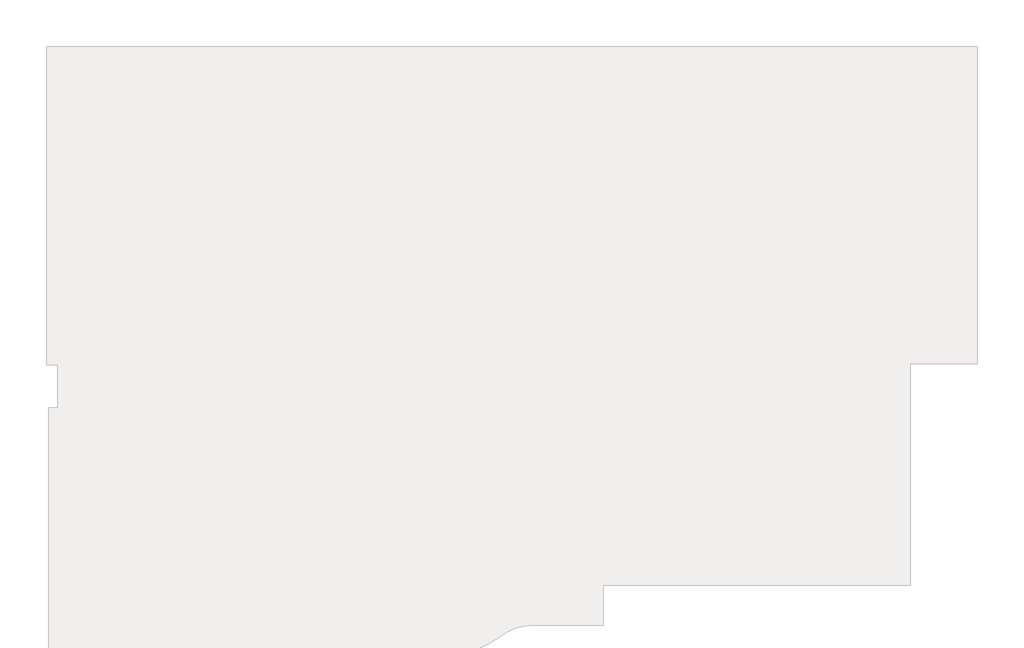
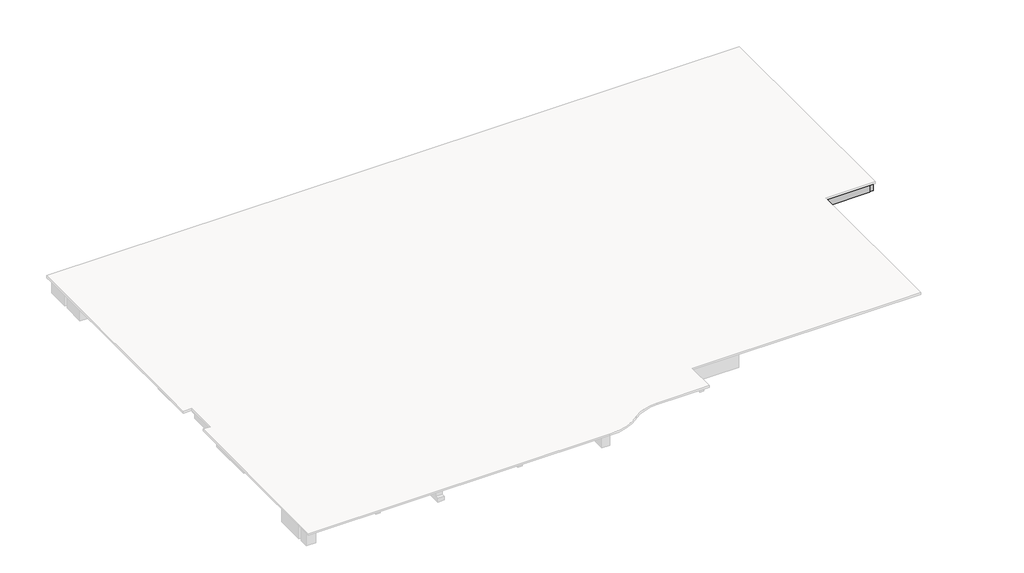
# One storey, part 3 of 3: 24 beams.
"""IFC4 building model written with IfcOpenShell, lengths in millimetres."""

import ifcopenshell
import ifcopenshell.guid

model = None  # the IFC model being written
_history = None  # IfcOwnerHistory: only IFC2X3 demands one
_inside = {}  # id of a spatial element -> (the spatial element, [elements in it])
_under = {}  # id of a project, library or spatial element -> (it, [spatial elements below it])
_declared = {}  # id of a project -> (the project, [libraries it declares])
_typed = {}  # id of a type object -> (the type object, [elements of that type])
_made_of = {}  # id of a material, layer set ... -> (it, [elements and type objects made of it])


def new_model(schema):
    """Start an empty IFC model of exactly this schema.

    Asked for "IFC4X3", IfcOpenShell would pick the latest addendum, in which some entities
    have other attributes; the version numbers below select the first issue.
    IFC2X3 requires an IfcOwnerHistory on every rooted entity: one is made here for all.
    """
    global model, _history
    if schema == "IFC4X3":
        model = ifcopenshell.file(schema_version=(4, 3, 0, 0))
    else:
        model = ifcopenshell.file(schema=schema)
    _inside.clear()
    _under.clear()
    _declared.clear()
    _typed.clear()
    _made_of.clear()
    _history = None
    if model.schema == "IFC2X3":
        org = make("IfcOrganization", Name="unknown")
        user = make(
            "IfcPersonAndOrganization",
            ThePerson=make("IfcPerson", FamilyName="unknown"),
            TheOrganization=org,
        )
        app = make(
            "IfcApplication",
            ApplicationDeveloper=org,
            Version="unknown",
            ApplicationFullName="unknown",
            ApplicationIdentifier="unknown",
        )
        _history = make(
            "IfcOwnerHistory",
            OwningUser=user,
            OwningApplication=app,
            ChangeAction="ADDED",
            CreationDate=0,
        )
    return model


def make(cls, **values):
    """One entity of the class cls with the attributes given. An attribute that is None is left unset."""
    return model.create_entity(
        cls, **{name: value for name, value in values.items() if value is not None}
    )


def rooted(cls, **values):
    """An entity with a GlobalId (a new one), such as an element, a storey or a relation."""
    return make(cls, GlobalId=ifcopenshell.guid.new(), OwnerHistory=_history, **values)


def si_unit(unit_type, name, prefix=None):
    """IfcSIUnit, for example si_unit("LENGTHUNIT", "METRE", prefix="MILLI")."""
    return make("IfcSIUnit", UnitType=unit_type, Prefix=prefix, Name=name)


def assignment(units):
    """IfcUnitAssignment: the units of a project."""
    return None if units is None else make("IfcUnitAssignment", Units=units)


def point(xyz):
    """IfcCartesianPoint."""
    return None if xyz is None else make("IfcCartesianPoint", Coordinates=xyz)


def direction(xyz):
    """IfcDirection."""
    return None if xyz is None else make("IfcDirection", DirectionRatios=xyz)


def frame(location, z_axis=None, x_axis=None):
    """IfcAxis2Placement3D, a coordinate frame: its origin and axes. An axis left out is left unset."""
    return make(
        "IfcAxis2Placement3D",
        Location=point(location),
        Axis=direction(z_axis),
        RefDirection=direction(x_axis),
    )


def origin():
    """The frame at (0, 0, 0) with its axes left unset."""
    return frame((0.0, 0.0, 0.0))


def place(relative_to, where):
    """IfcLocalPlacement: puts the frame where relative to a parent placement (None: the world)."""
    return make(
        "IfcLocalPlacement", PlacementRelTo=relative_to, RelativePlacement=where
    )


def context(
    kind, dimensions, precision=None, world=None, true_north=None, identifier=None
):
    """IfcGeometricRepresentationContext, for example the 3D "Model" context."""
    return make(
        "IfcGeometricRepresentationContext",
        ContextIdentifier=identifier,
        ContextType=kind,
        CoordinateSpaceDimension=dimensions,
        Precision=precision,
        WorldCoordinateSystem=world,
        TrueNorth=true_north,
    )


def project(units=None, contexts=None):
    """IfcProject with its units and contexts."""
    return rooted(
        "IfcProject",
        Name="project",
        RepresentationContexts=contexts,
        UnitsInContext=assignment(units),
    )


def spatial(cls, under=None, at=None, **own):
    """A site, building, storey or space (cls), placed at a placement, below another one or the project."""
    s = rooted(cls, ObjectPlacement=at, **own)
    if under is not None:
        _under.setdefault(under.id(), (under, []))[1].append(s)
    return s


def polyline(points):
    """IfcPolyline through the points."""
    return make("IfcPolyline", Points=[point(p) for p in points])


def outline(outer, holes=None, kind="AREA"):
    """IfcArbitraryClosedProfileDef: a profile drawn as a closed curve; with holes, ...WithVoids."""
    if holes is None:
        return make("IfcArbitraryClosedProfileDef", ProfileType=kind, OuterCurve=outer)
    return make(
        "IfcArbitraryProfileDefWithVoids",
        ProfileType=kind,
        OuterCurve=outer,
        InnerCurves=holes,
    )


def extrude(swept, where, along, depth):
    """IfcExtrudedAreaSolid: the profile swept, set in the frame where, extruded along a direction by depth."""
    return make(
        "IfcExtrudedAreaSolid",
        SweptArea=swept,
        Position=where,
        ExtrudedDirection=direction(along),
        Depth=depth,
    )


def faces_of(points, faces, orient=None, outer=None):
    """IfcFace entities. A face is a list of loops; a loop is a list of indices into points, from 0.

    orient and outer hold one flag for each loop. By default every Orientation is true, the
    first loop of a face is its IfcFaceOuterBound and the others are IfcFaceBound.
    """
    made = []
    for i, loops in enumerate(faces):
        bounds = []
        for j, loop in enumerate(loops):
            is_outer = j == 0 if outer is None else outer[i][j]
            bounds.append(
                make(
                    "IfcFaceOuterBound" if is_outer else "IfcFaceBound",
                    Bound=make("IfcPolyLoop", Polygon=[points[k] for k in loop]),
                    Orientation=True if orient is None else orient[i][j],
                )
            )
        made.append(make("IfcFace", Bounds=bounds))
    return made


def faceted_brep(points, faces, orient=None, outer=None, voids=None):
    """IfcFacetedBrep: a solid bounded by flat faces; with voids (closed shells), ...WithVoids."""
    shared = [point(p) for p in points]
    hull = make("IfcClosedShell", CfsFaces=faces_of(shared, faces, orient, outer))
    if voids is None:
        return make("IfcFacetedBrep", Outer=hull)
    return make(
        "IfcFacetedBrepWithVoids",
        Outer=hull,
        Voids=[
            make(cls, CfsFaces=faces_of(shared, fs, o, b)) for cls, fs, o, b in voids
        ],
    )


def shape(context_of_items, identifier, shape_type, items):
    """IfcShapeRepresentation: the items that make up one representation, for example the "Body"."""
    return make(
        "IfcShapeRepresentation",
        ContextOfItems=context_of_items,
        RepresentationIdentifier=identifier,
        RepresentationType=shape_type,
        Items=items,
    )


def made_of(thing, what):
    """Note that an element or type object is made of a material, layer set ...; save() writes the relation."""
    if what is not None:
        _made_of.setdefault(what.id(), (what, []))[1].append(thing)
    return thing


def element(
    cls,
    number,
    at=None,
    inside=None,
    cuts=None,
    type_object=None,
    material=None,
    context=None,
    identifier="Body",
    shape_type=None,
    held_by="IfcProductDefinitionShape",
    body=None,
    shapes=None,
    **own,
):
    """One element of the class cls, such as IfcWall. Its Tag is "e" and its number.

    at: its placement. inside: the storey or other place that contains it. cuts: it is an
    opening in that element (IfcRelVoidsElement). A single representation is given by context,
    identifier, shape_type and body (its items); several are given by shapes. held_by: the class
    of the entity that holds the representations. save() writes the other relations.
    """
    e = rooted(cls, Tag="e%d" % number, ObjectPlacement=at, **own)
    if body is not None:
        shapes = [shape(context, identifier, shape_type, body)]
    if shapes is not None:
        e.Representation = make(held_by, Representations=shapes)
    if inside is not None:
        _inside.setdefault(inside.id(), (inside, []))[1].append(e)
    if cuts is not None:
        rooted(
            "IfcRelVoidsElement", RelatingBuildingElement=cuts, RelatedOpeningElement=e
        )
    if type_object is not None:
        _typed.setdefault(type_object.id(), (type_object, []))[1].append(e)
    return made_of(e, material)


def aggregate(whole, parts):
    """IfcRelAggregates: a whole, such as a stair, and the parts it consists of."""
    return rooted("IfcRelAggregates", RelatingObject=whole, RelatedObjects=parts)


def save(model, path):
    """Write the relations noted so far, then the file.

    IfcRelAggregates (storeys below a building ...), IfcRelContainedInSpatialStructure (elements
    in a storey), IfcRelDefinesByType, IfcRelAssociatesMaterial and IfcRelDeclares: one each for
    every whole, place, type object, material and project.
    """
    for whole, parts in _under.values():
        aggregate(whole, parts)
    for where, things in _inside.values():
        rooted(
            "IfcRelContainedInSpatialStructure",
            RelatedElements=things,
            RelatingStructure=where,
        )
    for kind, things in _typed.values():
        rooted("IfcRelDefinesByType", RelatedObjects=things, RelatingType=kind)
    for what, things in _made_of.values():
        rooted("IfcRelAssociatesMaterial", RelatedObjects=things, RelatingMaterial=what)
    for by, libraries in _declared.values():
        rooted("IfcRelDeclares", RelatingContext=by, RelatedDefinitions=libraries)
    model.write(path)


model = new_model("IFC4")

# Units and contexts
model_context = context("Model", 3, world=origin())
ifc_project = project(units=[si_unit("LENGTHUNIT", "METRE", prefix="MILLI")], contexts=[model_context])

# Site, building, storey
site = spatial("IfcSite", under=ifc_project)
building = spatial("IfcBuilding", under=site)
storey = spatial("IfcBuildingStorey", under=building, Name="21F(S)", Elevation=4100.0)

# Beams
placement = place(None, origin())
element("IfcBeam", 1, ObjectType="混凝土 - 矩形梁 : 150x400", at=placement, inside=storey, context=model_context, shape_type="SweptSolid", body=[
    extrude(outline(polyline([(34400.0000002, 19989.9923697), (34550.0000002, 19989.9923697), (34550.0000002, 19300.1055268), (34400.0000002, 19300.1055268), (34400.0000002, 19989.9923697)])), frame((0.0, 0.0, 3700.0), z_axis=(0.0, 0.0, 1.0), x_axis=(1.0, 0.0, 0.0)), (0.0, 0.0, 1.0), 300.0),
])
element("IfcBeam", 2, ObjectType="混凝土 - 矩形梁 : 200x400", at=placement, inside=storey, context=model_context, shape_type="Brep", body=[
    faceted_brep([(32790.0000001, 19100.1055268, 3700.0), (35190.0000001, 19100.1055268, 3700.0), (35190.0000001, 19100.1055268, 4000.0), (32790.0000001, 19100.1055268, 4000.0), (35190.0000001, 19300.1055268, 3700.0), (32790.0000001, 19300.1055268, 3700.0), (34400.0000002, 19300.1055268, 3700.0), (34550.0000002, 19300.1055268, 3700.0), (32790.0000001, 19300.1055268, 4000.0), (34400.0000002, 19300.1055268, 4000.0), (34550.0000002, 19300.1055268, 4000.0), (35190.0000001, 19300.1055268, 4000.0)], [[[0, 1, 2, 3]], [[4, 1, 0, 5, 6, 7]], [[4, 7, 6, 5, 8, 9, 10, 11]], [[1, 4, 11, 2]], [[5, 0, 3, 8]], [[3, 2, 11, 10, 9, 8]]]),
])
element("IfcBeam", 3, ObjectType="混凝土 - 矩形梁 : 200x400", at=placement, inside=storey, context=model_context, shape_type="SweptSolid", body=[
    extrude(outline(polyline([(35190.0000001, 13039.9847063), (32789.9999955, 13039.9847063), (32789.9999955, 13239.9847063), (35190.0000001, 13239.9847063), (35190.0000001, 13039.9847063)])), frame((0.0, 0.0, 3700.0), z_axis=(0.0, 0.0, 1.0), x_axis=(1.0, 0.0, 0.0)), (0.0, 0.0, 1.0), 300.0),
])
element("IfcBeam", 4, ObjectType="混凝土 - 矩形梁 : 200x400", at=placement, inside=storey, context=model_context, shape_type="Brep", body=[
    faceted_brep([(3950.0000009, 19989.9923697, 3700.0), (3950.0000009, 19819.9923697, 3700.0), (3950.0000009, 17639.9923697, 3700.0), (3950.0000009, 17639.9923697, 4000.0), (3950.0000009, 19819.9923697, 4000.0), (3950.0000009, 19989.9923697, 4000.0), (4150.0000009, 19989.9923697, 3700.0), (4150.0000009, 19819.9923697, 3700.0), (4150.0000009, 17639.9923697, 3700.0), (4150.0000009, 19989.9923697, 4000.0), (4150.0000009, 19819.9923697, 4000.0), (4150.0000009, 17639.9923697, 4000.0)], [[[0, 1, 2, 3, 4, 5]], [[2, 1, 0, 6, 7, 8]], [[8, 7, 6, 9, 10, 11]], [[6, 0, 5, 9]], [[2, 8, 11, 3]], [[5, 4, 3, 11, 10, 9]]]),
])
element("IfcBeam", 5, ObjectType="混凝土 - 矩形梁 : 200x400", at=placement, inside=storey, context=model_context, shape_type="SweptSolid", body=[
    extrude(outline(polyline([(30449.9986155, 11239.9928788), (30649.9986155, 11239.9928788), (30649.9986155, 10889.9923699), (30449.9986155, 10889.9923699), (30449.9986155, 11239.9928788)])), frame((0.0, 0.0, 3700.0), z_axis=(0.0, 0.0, 1.0), x_axis=(1.0, 0.0, 0.0)), (0.0, 0.0, 1.0), 300.0),
    extrude(outline(polyline([(30649.9986155, 8639.99237), (30449.9986155, 8639.99237), (30449.9986155, 10689.9923699), (30649.9986155, 10689.9923699), (30649.9986155, 8639.99237)])), frame((0.0, 0.0, 3700.0), z_axis=(0.0, 0.0, 1.0), x_axis=(1.0, 0.0, 0.0)), (0.0, 0.0, 1.0), 300.0),
])
element("IfcBeam", 6, ObjectType="混凝土 - 矩形梁 : 200x400", at=placement, inside=storey, context=model_context, shape_type="SweptSolid", body=[
    extrude(outline(polyline([(24619.9999987, 8640.4910855), (24419.9999987, 8640.4910855), (24419.9999987, 11239.4910855), (24619.9999987, 11239.4910855), (24619.9999987, 8640.4910855)])), frame((0.0, 0.0, 3700.0), z_axis=(0.0, 0.0, 1.0), x_axis=(1.0, 0.0, 0.0)), (0.0, 0.0, 1.0), 300.0),
])
element("IfcBeam", 7, ObjectType="混凝土 - 矩形梁 : 200x400", at=placement, inside=storey, context=model_context, shape_type="SweptSolid", body=[
    extrude(outline(polyline([(28979.9993068, 8640.4902401), (28779.9993068, 8640.4902401), (28779.9993068, 11239.4902401), (28979.9993068, 11239.4902401), (28979.9993068, 8640.4902401)])), frame((0.0, 0.0, 3700.0), z_axis=(0.0, 0.0, 1.0), x_axis=(1.0, 0.0, 0.0)), (0.0, 0.0, 1.0), 300.0),
])
element("IfcBeam", 8, ObjectType="混凝土 - 矩形梁 : 200x600", at=placement, inside=storey, context=model_context, shape_type="Brep", body=[
    faceted_brep([(1490.0000009, 19989.9923697, 3500.0), (2360.0000009, 19989.9923697, 3500.0), (2760.0000009, 19989.9923697, 3500.0), (14800.000833, 19989.9923697, 3500.0), (15200.000833, 19989.9923697, 3500.0), (23500.0000001, 19989.9923697, 3500.0), (23900.0000001, 19989.9923697, 3500.0), (32390.0000001, 19989.9923697, 3500.0), (32790.0000001, 19989.9923697, 3500.0), (35190.0000001, 19989.9923697, 3500.0), (35390.0000001, 19989.9923697, 3500.0), (35390.0000001, 19989.9923697, 4000.0), (35190.0000001, 19989.9923697, 4000.0), (34550.0000002, 19989.9923697, 4000.0), (34400.0000002, 19989.9923697, 4000.0), (32790.0000001, 19989.9923697, 4000.0), (32390.0000001, 19989.9923697, 4000.0), (28174.9993071, 19989.9923697, 4000.0), (27924.9993071, 19989.9923697, 4000.0), (23900.0000001, 19989.9923697, 4000.0), (23500.0000001, 19989.9923697, 4000.0), (19174.9993071, 19989.9923697, 4000.0), (18924.9993071, 19989.9923697, 4000.0), (15200.000833, 19989.9923697, 4000.0), (14800.000833, 19989.9923697, 4000.0), (10775.000833, 19989.9923697, 4000.0), (10525.000833, 19989.9923697, 4000.0), (6450.0000008, 19989.9923697, 4000.0), (6250.0000008, 19989.9923697, 4000.0), (6149.9993113, 19989.9923697, 4000.0), (4150.0000009, 19989.9923697, 4000.0), (3950.0000009, 19989.9923697, 4000.0), (2760.0000009, 19989.9923697, 4000.0), (2360.0000009, 19989.9923697, 4000.0), (1490.0000009, 19989.9923697, 4000.0), (35390.0000001, 20189.9923697, 3500.0), (1490.0000009, 20189.9923697, 3500.0), (14800.000833, 20189.9923697, 3500.0), (15200.000833, 20189.9923697, 3500.0), (23500.0000001, 20189.9923697, 3500.0), (23900.0000001, 20189.9923697, 3500.0), (31950.0000003, 20189.9923697, 3500.0), (31950.0000003, 20039.9847016, 3500.0), (32150.0000003, 20039.9847016, 3500.0), (32150.0000003, 20189.9923697, 3500.0), (32390.0000001, 20189.9923697, 3500.0), (32790.0000001, 20189.9923697, 3500.0), (32150.0000003, 20189.9923697, 4000.0), (35390.0000001, 20189.9923697, 4000.0), (1490.0000009, 20189.9923697, 4000.0), (32150.0000003, 20039.9847016, 4000.0), (31950.0000003, 20039.9847016, 4000.0), (31950.0000003, 20189.9923697, 4000.0)], [[[0, 1, 2, 3, 4, 5, 6, 7, 8, 9, 10, 11, 12, 13, 14, 15, 16, 17, 18, 19, 20, 21, 22, 23, 24, 25, 26, 27, 28, 29, 30, 31, 32, 33, 34]], [[35, 10, 9, 8, 7, 6, 5, 4, 3, 2, 1, 0, 36, 37, 38, 39, 40, 41, 42, 43, 44, 45, 46]], [[35, 46, 45, 44, 47, 48]], [[10, 35, 48, 11]], [[36, 0, 34, 49]], [[44, 43, 50, 47]], [[43, 42, 51, 50]], [[42, 41, 52, 51]], [[41, 40, 39, 38, 37, 36, 49, 52]], [[34, 33, 32, 31, 30, 29, 28, 27, 26, 25, 24, 23, 22, 21, 20, 19, 18, 17, 16, 15, 14, 13, 12, 11, 48, 47, 50, 51, 52, 49]]]),
    faceted_brep([(-200.0, 20189.9923697, 3500.0), (-200.0, 19989.9923697, 3500.0), (-200.0, 19989.9923697, 4000.0), (-200.0, 20189.9923697, 4000.0), (1290.0000009, 19989.9923697, 3500.0), (1290.0000009, 20189.9923697, 3500.0), (1290.0000009, 20189.9923697, 4000.0), (1290.0000009, 19989.9923697, 4000.0)], [[[0, 1, 2, 3]], [[4, 5, 6, 7]], [[1, 4, 7, 2]], [[1, 0, 5, 4]], [[5, 0, 3, 6]], [[3, 2, 7, 6]]]),
])
element("IfcBeam", 9, ObjectType="混凝土 - 矩形梁 : 200x600", at=placement, inside=storey, context=model_context, shape_type="Brep", body=[
    faceted_brep([(35190.0000001, 10289.9847397, 3500.0), (35190.0000001, 8550.1104518, 3500.0), (35190.0000001, 8389.9847401, 3500.0), (35190.0000001, 8389.9847401, 4000.0), (35190.0000001, 8550.1104518, 4000.0), (35190.0000001, 10289.9847397, 4000.0), (35390.0000001, 8389.9847401, 3500.0), (35390.0000001, 10289.9847397, 3500.0), (35390.0000001, 10289.9847397, 4000.0), (35390.0000001, 8389.9847401, 4000.0)], [[[0, 1, 2, 3, 4, 5]], [[6, 2, 1, 0, 7]], [[6, 7, 8, 9]], [[2, 6, 9, 3]], [[7, 0, 5, 8]], [[5, 4, 3, 9, 8]]]),
    faceted_brep([(35390.0000001, 19989.9923697, 3500.0), (35190.0000001, 19989.9923697, 3500.0), (35190.0000001, 19989.9923697, 4000.0), (35390.0000001, 19989.9923697, 4000.0), (35190.0000001, 17039.9923699, 3500.0), (35390.0000001, 17039.9923699, 3500.0), (35390.0000001, 17039.9923699, 4000.0), (35190.0000001, 17039.9923699, 4000.0), (35390.0000001, 17200.0, 3500.0), (35390.0000001, 17600.0, 3500.0), (35190.0000001, 19300.1055268, 4000.0), (35190.0000001, 19100.1055268, 4000.0), (35190.0000001, 17600.0, 4000.0), (35190.0000001, 17200.0, 4000.0), (35190.0000001, 17600.0, 3500.0), (35190.0000001, 17200.0, 3500.0)], [[[0, 1, 2, 3]], [[4, 5, 6, 7]], [[5, 8, 9, 0, 3, 6]], [[3, 2, 10, 11, 12, 13, 7, 6]], [[1, 14, 15, 4, 7, 13, 12, 11, 10, 2]], [[1, 0, 9, 8, 5, 4, 15, 14]]]),
    faceted_brep([(35190.0000001, 10489.9847397, 3500.0), (35390.0000001, 10489.9847397, 3500.0), (35390.0000001, 10489.9847397, 4000.0), (35190.0000001, 10489.9847397, 4000.0), (35190.0000001, 12039.9877926, 3500.0), (35190.0000001, 11600.1065476, 3500.0), (35190.0000001, 11200.1065476, 3500.0), (35190.0000001, 11200.1065476, 4000.0), (35190.0000001, 11600.1065476, 4000.0), (35190.0000001, 12039.9877926, 4000.0), (35390.0000001, 12039.9877926, 3500.0), (35390.0000001, 11600.1065476, 3500.0), (35390.0000001, 11200.1065476, 3500.0), (35390.0000001, 12039.9877926, 4000.0)], [[[0, 1, 2, 3]], [[4, 5, 6, 0, 3, 7, 8, 9]], [[1, 0, 6, 5, 4, 10, 11, 12]], [[1, 12, 11, 10, 13, 2]], [[10, 4, 9, 13]], [[3, 2, 13, 9, 8, 7]]]),
    faceted_brep([(35190.0000001, 12239.9877926, 3500.0), (35390.0000001, 12239.9877926, 3500.0), (35390.0000001, 12239.9877926, 4000.0), (35190.0000001, 12239.9877926, 4000.0), (35190.0000001, 13039.9847063, 3500.0), (35190.0000001, 13039.9847063, 4000.0), (35390.0000001, 13039.9847063, 3500.0), (35390.0000001, 13039.9847063, 4000.0)], [[[0, 1, 2, 3]], [[4, 0, 3, 5]], [[1, 0, 4, 6]], [[1, 6, 7, 2]], [[6, 4, 5, 7]], [[3, 2, 7, 5]]]),
    faceted_brep([(35190.0000001, 13239.9847063, 3500.0), (35390.0000001, 13239.9847063, 3500.0), (35390.0000001, 13239.9847063, 4000.0), (35190.0000001, 13239.9847063, 4000.0), (35190.0000001, 14439.8579857, 3500.0), (35190.0000001, 14439.8579857, 4000.0), (35390.0000001, 14439.8579857, 3500.0), (35390.0000001, 14439.8579857, 4000.0)], [[[0, 1, 2, 3]], [[4, 0, 3, 5]], [[1, 0, 4, 6]], [[1, 6, 7, 2]], [[6, 4, 5, 7]], [[3, 2, 7, 5]]]),
    faceted_brep([(35190.0000001, 14639.8579857, 3500.0), (35390.0000001, 14639.8579857, 3500.0), (35390.0000001, 14639.8579857, 4000.0), (35190.0000001, 14639.8579857, 4000.0), (35190.0000001, 16839.9923699, 3500.0), (35190.0000001, 16839.9923699, 4000.0), (35390.0000001, 16839.9923699, 3500.0), (35390.0000001, 16839.9923699, 4000.0)], [[[0, 1, 2, 3]], [[4, 0, 3, 5]], [[1, 0, 4, 6]], [[1, 6, 7, 2]], [[6, 4, 5, 7]], [[3, 2, 7, 5]]]),
])
element("IfcBeam", 10, ObjectType="混凝土 - 矩形梁 : 200x600", at=placement, inside=storey, context=model_context, shape_type="Brep", body=[
    faceted_brep([(32790.000001, 8550.1104518, 3500.0), (32790.000001, 8350.1104518, 3500.0), (32790.000001, 8350.1104518, 4000.0), (32790.000001, 8550.1104518, 4000.0), (35190.0000001, 8550.1104518, 3500.0), (35190.0000001, 8550.1104518, 4000.0), (35190.0000001, 8389.9847401, 3500.0), (35190.0000001, 8350.1104518, 3500.0), (35190.0000001, 8350.1104518, 4000.0), (35190.0000001, 8389.9847401, 4000.0)], [[[0, 1, 2, 3]], [[4, 0, 3, 5]], [[1, 0, 4, 6, 7]], [[1, 7, 8, 2]], [[7, 6, 4, 5, 9, 8]], [[3, 2, 8, 9, 5]]]),
])
element("IfcBeam", 11, ObjectType="混凝土 - 矩形梁 : 250x500", at=placement, inside=storey, context=model_context, shape_type="Brep", body=[
    faceted_brep([(15200.000833, 13650.1101258, 3600.0), (18924.9993071, 13650.1101258, 3600.0), (19174.9993071, 13650.1101258, 3600.0), (23500.0000001, 13650.1101258, 3600.0), (23500.0000001, 13650.1101258, 4000.0), (19174.9993071, 13650.1101258, 4000.0), (18924.9993071, 13650.1101258, 4000.0), (15200.000833, 13650.1101258, 4000.0), (15200.000833, 13900.1101258, 3600.0), (18924.9993071, 13900.1101258, 3600.0), (19174.9993071, 13900.1101258, 3600.0), (23500.0000001, 13900.1101258, 3600.0), (15200.000833, 13900.1101258, 4000.0), (18924.9993071, 13900.1101258, 4000.0), (19174.9993071, 13900.1101258, 4000.0), (23500.0000001, 13900.1101258, 4000.0)], [[[0, 1, 2, 3, 4, 5, 6, 7]], [[0, 8, 9, 10, 11, 3, 2, 1]], [[11, 10, 9, 8, 12, 13, 14, 15]], [[8, 0, 7, 12]], [[3, 11, 15, 4]], [[7, 6, 5, 4, 15, 14, 13, 12]]]),
])
element("IfcBeam", 12, ObjectType="混凝土 - 矩形梁 : 250x500", at=placement, inside=storey, context=model_context, shape_type="Brep", body=[
    faceted_brep([(23900.0000001, 13650.1101258, 3600.0), (27924.9993071, 13650.1101258, 3600.0), (28174.9993071, 13650.1101258, 3600.0), (32390.0000001, 13650.1101258, 3600.0), (32390.0000001, 13650.1101258, 4000.0), (28174.9993071, 13650.1101258, 4000.0), (27924.9993071, 13650.1101258, 4000.0), (23900.0000001, 13650.1101258, 4000.0), (23900.0000001, 13900.1101258, 3600.0), (27924.9993071, 13900.1101258, 3600.0), (28174.9993071, 13900.1101258, 3600.0), (32390.0000001, 13900.1101258, 3600.0), (23900.0000001, 13900.1101258, 4000.0), (27924.9993071, 13900.1101258, 4000.0), (28174.9993071, 13900.1101258, 4000.0), (32390.0000001, 13900.1101258, 4000.0)], [[[0, 1, 2, 3, 4, 5, 6, 7]], [[0, 8, 9, 10, 11, 3, 2, 1]], [[11, 10, 9, 8, 12, 13, 14, 15]], [[8, 0, 7, 12]], [[3, 11, 15, 4]], [[7, 6, 5, 4, 15, 14, 13, 12]]]),
])
element("IfcBeam", 13, ObjectType="混凝土 - 矩形梁 : 250x500", at=placement, inside=storey, context=model_context, shape_type="Brep", body=[
    faceted_brep([(27924.9993071, 11639.9923698, 3600.0), (27950.0, 11639.9923698, 3600.0), (28050.0, 11639.9923698, 3600.0), (28174.9993071, 11639.9923698, 3600.0), (28174.9993071, 11639.9923698, 4000.0), (27924.9993071, 11639.9923698, 4000.0), (28174.9993071, 13650.1101258, 3600.0), (27924.9993071, 13650.1101258, 3600.0), (27924.9993071, 13650.1101258, 4000.0), (28174.9993071, 13650.1101258, 4000.0)], [[[0, 1, 2, 3, 4, 5]], [[6, 7, 8, 9]], [[3, 6, 9, 4]], [[3, 2, 1, 0, 7, 6]], [[7, 0, 5, 8]], [[5, 4, 9, 8]]]),
    faceted_brep([(28174.9993071, 17600.0, 3600.0), (28174.9993071, 19989.9923697, 3600.0), (28174.9993071, 19989.9923697, 4000.0), (28174.9993071, 17600.0, 4000.0), (27924.9993071, 17600.0, 3600.0), (27924.9993071, 19989.9923697, 3600.0), (27924.9993071, 17600.0, 4000.0), (27924.9993071, 19989.9923697, 4000.0)], [[[0, 1, 2, 3]], [[0, 4, 5, 1]], [[5, 4, 6, 7]], [[4, 0, 3, 6]], [[1, 5, 7, 2]], [[3, 2, 7, 6]]]),
    faceted_brep([(28174.9993071, 17200.0, 3600.0), (27924.9993071, 17200.0, 3600.0), (27924.9993071, 17200.0, 4000.0), (28174.9993071, 17200.0, 4000.0), (28174.9993071, 13900.1101258, 3600.0), (28174.9993071, 13900.1101258, 4000.0), (27924.9993071, 13900.1101258, 3600.0), (27924.9993071, 13900.1101258, 4000.0)], [[[0, 1, 2, 3]], [[4, 0, 3, 5]], [[1, 0, 4, 6]], [[1, 6, 7, 2]], [[6, 4, 5, 7]], [[3, 2, 7, 5]]]),
])
element("IfcBeam", 14, ObjectType="混凝土 - 矩形梁 : 250x500", at=placement, inside=storey, context=model_context, shape_type="Brep", body=[
    faceted_brep([(23319.5004166, 11000.1024559, 3600.0), (23319.5004166, 11250.1024559, 3600.0), (23319.5004166, 11250.1024559, 4000.0), (23319.5004166, 11000.1024559, 4000.0), (19174.9993071, 11000.1024559, 3600.0), (21620.0000001, 11000.1024559, 3600.0), (21720.0000001, 11000.1024559, 3600.0), (21720.0000001, 11000.1024559, 4000.0), (21620.0000001, 11000.1024559, 4000.0), (19174.9993071, 11000.1024559, 4000.0), (19174.9993071, 11250.1024559, 3600.0), (21620.0000001, 11250.1024559, 3600.0), (21720.0000001, 11250.1024559, 3600.0), (19174.9993071, 11250.1024559, 4000.0), (21620.0000001, 11250.1024559, 4000.0), (21720.0000001, 11250.1024559, 4000.0)], [[[0, 1, 2, 3]], [[4, 5, 6, 0, 3, 7, 8, 9]], [[1, 0, 6, 5, 4, 10, 11, 12]], [[1, 12, 11, 10, 13, 14, 15, 2]], [[10, 4, 9, 13]], [[3, 2, 15, 14, 13, 9, 8, 7]]]),
    faceted_brep([(15200.000833, 11250.1024559, 3600.0), (15200.000833, 11000.1024559, 3600.0), (15200.000833, 11000.1024559, 4000.0), (15200.000833, 11250.1024559, 4000.0), (18924.9993071, 11000.1024559, 3600.0), (18924.9993071, 11250.1024559, 3600.0), (18924.9993071, 11250.1024559, 4000.0), (18924.9993071, 11000.1024559, 4000.0), (17820.0000001, 11000.1024559, 3600.0), (17920.0000001, 11000.1024559, 3600.0), (17920.0000001, 11000.1024559, 4000.0), (17820.0000001, 11000.1024559, 4000.0), (17820.0000001, 11250.1024559, 3600.0), (17920.0000001, 11250.1024559, 3600.0), (17820.0000001, 11250.1024559, 4000.0), (17920.0000001, 11250.1024559, 4000.0)], [[[0, 1, 2, 3]], [[4, 5, 6, 7]], [[1, 8, 9, 4, 7, 10, 11, 2]], [[1, 0, 12, 13, 5, 4, 9, 8]], [[5, 13, 12, 0, 3, 14, 15, 6]], [[3, 2, 11, 10, 7, 6, 15, 14]]]),
])
element("IfcBeam", 15, ObjectType="混凝土 - 矩形梁 : 250x500", at=placement, inside=storey, context=model_context, shape_type="SweptSolid", body=[
    extrude(outline(polyline([(32349.9986687, 8639.99237), (32349.9986687, 8389.99237), (29949.9986687, 8389.99237), (29949.9986687, 8639.99237), (30449.9999987, 8639.99237), (30449.9999987, 8439.99237), (30649.9999987, 8439.99237), (30649.9999987, 8639.99237), (32349.9986687, 8639.99237)])), frame((0.0, 0.0, 3600.0), z_axis=(0.0, 0.0, 1.0), x_axis=(1.0, 0.0, 0.0)), (0.0, 0.0, 1.0), 400.0),
])
element("IfcBeam", 16, ObjectType="混凝土 - 矩形梁 : 300x800", at=placement, inside=storey, context=model_context, shape_type="Brep", body=[
    faceted_brep([(6149.9993113, 13900.0512522, 3300.0), (6449.9993113, 13900.0512522, 3300.0), (6449.9993113, 13900.0512522, 4000.0), (6149.9993113, 13900.0512522, 4000.0), (6149.9993113, 16939.9923697, 3300.0), (6149.9993113, 14819.99237, 3300.0), (6149.9993113, 14719.99237, 3300.0), (6149.9993113, 14599.992383, 3300.0), (6149.9993113, 14599.992383, 4000.0), (6149.9993113, 14719.8960966, 4000.0), (6149.9993113, 14919.8960966, 4000.0), (6149.9993113, 16939.9923697, 4000.0), (6449.9993113, 16939.9923697, 3300.0), (6449.9993113, 16939.9923697, 4000.0)], [[[0, 1, 2, 3]], [[4, 5, 6, 7, 0, 3, 8, 9, 10, 11]], [[1, 0, 7, 6, 5, 4, 12]], [[1, 12, 13, 2]], [[12, 4, 11, 13]], [[3, 2, 13, 11, 10, 9, 8]]]),
    faceted_brep([(6250.0000008, 19990.1101258, 3300.0), (6149.9993113, 19990.1101258, 3300.0), (6149.9993113, 19990.1101258, 4000.0), (6250.0000008, 19990.1101258, 4000.0), (6449.9993113, 19789.9862485, 3300.0), (6250.0000008, 19789.9862485, 3300.0), (6250.0000008, 19789.9862485, 4000.0), (6449.9993113, 19789.9862485, 4000.0), (6250.0000008, 19819.9923697, 3300.0), (6149.9993113, 17639.9923697, 3300.0), (6449.9993113, 17639.9923697, 3300.0), (6449.9993113, 17639.9923697, 4000.0), (6149.9993113, 17639.9923697, 4000.0), (6149.9993113, 19819.9923697, 3300.0), (6149.9993113, 19819.9923697, 4000.0), (6449.9993113, 19039.99237, 3300.0), (6250.0000008, 19039.99237, 3300.0), (6250.0000008, 18839.99237, 3300.0), (6449.9993113, 18839.99237, 3300.0), (6449.9993113, 18839.99237, 4000.0), (6250.0000008, 18839.99237, 4000.0), (6250.0000008, 19039.99237, 4000.0), (6449.9993113, 19039.99237, 4000.0)], [[[0, 1, 2, 3]], [[4, 5, 6, 7]], [[5, 8, 0, 3, 6]], [[9, 10, 11, 12]], [[1, 13, 9, 12, 14, 2]], [[1, 0, 8, 5, 4, 15, 16, 17, 18, 10, 9, 13]], [[10, 18, 19, 11]], [[18, 17, 20, 19]], [[17, 16, 21, 20]], [[16, 15, 22, 21]], [[15, 4, 7, 22]], [[3, 2, 14, 12, 11, 19, 20, 21, 22, 7, 6]]]),
])
element("IfcBeam", 17, ObjectType="混凝土 - 矩形梁 : 400x600", at=placement, inside=storey, context=model_context, shape_type="Brep", body=[
    faceted_brep([(2760.0000009, 17639.9923682, 3500.0), (2760.0000009, 19819.9923697, 3500.0), (2760.0000009, 19989.9923697, 3500.0), (2760.0000009, 19989.9923697, 4000.0), (2760.0000009, 19819.9923697, 4000.0), (2760.0000009, 17639.9923682, 4000.0), (2360.0000009, 19989.9923697, 3500.0), (2360.0000009, 17639.9923682, 3500.0), (2360.0000009, 19819.9923697, 3500.0), (2360.0000009, 17639.9923682, 4000.0), (2360.0000009, 19819.9923697, 4000.0), (2360.0000009, 19989.9923697, 4000.0)], [[[0, 1, 2, 3, 4, 5]], [[6, 2, 1, 0, 7, 8]], [[6, 8, 7, 9, 10, 11]], [[2, 6, 11, 3]], [[7, 0, 5, 9]], [[5, 4, 3, 11, 10, 9]]]),
])
element("IfcBeam", 18, ObjectType="混凝土 - 矩形梁 : 400x600", at=placement, inside=storey, context=model_context, shape_type="SweptSolid", body=[
    extrude(outline(polyline([(32390.0000031, 5919.9999611), (32790.0000031, 5919.9999611), (32790.0000031, 2519.9999611), (32390.0000031, 2519.9999611), (32390.0000031, 5919.9999611)])), frame((0.0, 0.0, 3500.0), z_axis=(0.0, 0.0, 1.0), x_axis=(1.0, 0.0, 0.0)), (0.0, 0.0, 1.0), 500.0),
])
element("IfcBeam", 19, ObjectType="混凝土 - 矩形梁 : 400x800", at=placement, inside=storey, context=model_context, shape_type="SweptSolid", body=[
    extrude(outline(polyline([(20189.9923697, 3500.0), (20189.9923697, 3300.0), (17800.0, 3300.0), (17800.0, 4000.0), (19989.9923697, 4000.0), (19989.9923697, 3500.0), (20189.9923697, 3500.0)])), frame((14800.000833, 0.0, 0.0), z_axis=(1.0, 0.0, 0.0), x_axis=(0.0, 1.0, 0.0)), (0.0, 0.0, 1.0), 400.0),
])
element("IfcBeam", 20, ObjectType="混凝土 - 矩形梁 : 400x800", at=placement, inside=storey, context=model_context, shape_type="Brep", body=[
    faceted_brep([(23500.0000001, 11639.9923698, 3300.0), (23900.0000001, 11639.9923698, 3300.0), (23900.0000001, 11639.9923698, 4000.0), (23500.0000001, 11639.9923698, 4000.0), (23900.0000001, 17000.0, 3300.0), (23500.0000001, 17000.0, 3300.0), (23500.0000001, 17000.0, 4000.0), (23900.0000001, 17000.0, 4000.0), (23900.0000001, 13900.1101258, 4000.0), (23900.0000001, 13650.1101258, 4000.0), (23500.0000001, 13650.1101258, 4000.0), (23500.0000001, 13900.1101258, 4000.0)], [[[0, 1, 2, 3]], [[4, 5, 6, 7]], [[1, 4, 7, 8, 9, 2]], [[1, 0, 5, 4]], [[5, 0, 3, 10, 11, 6]], [[3, 2, 9, 8, 7, 6, 11, 10]]]),
    faceted_brep([(23900.0000001, 20189.9923697, 3300.0), (23900.0000001, 20189.9923697, 3500.0), (23900.0000001, 19989.9923697, 3500.0), (23900.0000001, 19989.9923697, 4000.0), (23900.0000001, 17800.0, 4000.0), (23900.0000001, 17800.0, 3300.0), (23500.0000001, 20189.9923697, 3300.0), (23500.0000001, 17800.0, 3300.0), (23500.0000001, 20189.9923697, 3500.0), (23500.0000001, 17800.0, 4000.0), (23500.0000001, 19989.9923697, 4000.0), (23500.0000001, 19989.9923697, 3500.0)], [[[0, 1, 2, 3, 4, 5]], [[6, 0, 5, 7]], [[8, 6, 7, 9, 10, 11]], [[0, 6, 8, 1]], [[2, 11, 10, 3]], [[2, 1, 8, 11]], [[7, 5, 4, 9]], [[4, 3, 10, 9]]]),
])
element("IfcBeam", 21, ObjectType="混凝土 - 矩形梁 : 400x800", at=placement, inside=storey, context=model_context, shape_type="Brep", body=[
    faceted_brep([(14560.0015254, 17600.0, 3300.0), (6650.0, 17600.0, 3300.0), (6650.0, 17600.0, 4000.0), (10525.000833, 17600.0, 4000.0), (10775.000833, 17600.0, 4000.0), (14560.0015254, 17600.0, 4000.0), (6650.0, 17200.0, 3300.0), (14560.0015254, 17200.0, 3300.0), (14560.0015254, 17200.0, 4000.0), (10775.000833, 17200.0, 4000.0), (10525.000833, 17200.0, 4000.0), (6650.0, 17200.0, 4000.0)], [[[0, 1, 2, 3, 4, 5]], [[6, 1, 0, 7]], [[6, 7, 8, 9, 10, 11]], [[1, 6, 11, 2]], [[7, 0, 5, 8]], [[5, 4, 3, 2, 11, 10, 9, 8]]]),
    faceted_brep([(35390.0000001, 17200.0, 3300.0), (35390.0000001, 17600.0, 3300.0), (35390.0000001, 17600.0, 3500.0), (35390.0000001, 17200.0, 3500.0), (35190.0000001, 17200.0, 3500.0), (35190.0000001, 17600.0, 3500.0), (35190.0000001, 17600.0, 4000.0), (35190.0000001, 17200.0, 4000.0), (32810.0000006, 17600.0, 3300.0), (32810.0000006, 17200.0, 3300.0), (32810.0000006, 17200.0, 4000.0), (32810.0000006, 17600.0, 4000.0)], [[[0, 1, 2, 3]], [[4, 5, 6, 7]], [[3, 2, 5, 4]], [[8, 9, 10, 11]], [[2, 1, 8, 11, 6, 5]], [[1, 0, 9, 8]], [[0, 3, 4, 7, 10, 9]], [[7, 6, 11, 10]]]),
    faceted_brep([(32010.0000006, 17200.0, 3300.0), (32010.0000006, 17600.0, 3300.0), (32010.0000006, 17600.0, 4000.0), (32010.0000006, 17200.0, 4000.0), (23909.9999995, 17600.0, 3300.0), (23909.9999995, 17200.0, 3300.0), (23909.9999995, 17200.0, 4000.0), (23909.9999995, 17600.0, 4000.0), (31950.0, 17600.0, 3300.0), (27924.9993071, 17600.0, 4000.0), (28174.9993071, 17600.0, 4000.0), (31950.0, 17600.0, 4000.0), (31950.0, 17200.0, 3300.0), (31950.0, 17200.0, 4000.0), (28174.9993071, 17200.0, 4000.0), (27924.9993071, 17200.0, 4000.0)], [[[0, 1, 2, 3]], [[4, 5, 6, 7]], [[1, 8, 4, 7, 9, 10, 11, 2]], [[1, 0, 12, 5, 4, 8]], [[5, 12, 0, 3, 13, 14, 15, 6]], [[3, 2, 11, 10, 9, 7, 6, 15, 14, 13]]]),
    faceted_brep([(23109.9999995, 17200.0, 3300.0), (23109.9999995, 17600.0, 3300.0), (23109.9999995, 17600.0, 4000.0), (23109.9999995, 17200.0, 4000.0), (15360.0015254, 17600.0, 3300.0), (15360.0015254, 17200.0, 3300.0), (15360.0015254, 17200.0, 4000.0), (15360.0015254, 17600.0, 4000.0), (18924.9993071, 17600.0, 4000.0), (19174.9993071, 17600.0, 4000.0), (19174.9993071, 17200.0, 4000.0), (18924.9993071, 17200.0, 4000.0)], [[[0, 1, 2, 3]], [[4, 5, 6, 7]], [[1, 4, 7, 8, 9, 2]], [[1, 0, 5, 4]], [[5, 0, 3, 10, 11, 6]], [[3, 2, 9, 8, 7, 6, 11, 10]]]),
])
element("IfcBeam", 22, ObjectType="混凝土 - 矩形梁 : 400x800", at=placement, inside=storey, context=model_context, shape_type="Brep", body=[
    faceted_brep([(32390.0000001, 11639.9923698, 3300.0), (32790.0000001, 11639.9923698, 3300.0), (32790.0000001, 11639.9923698, 4000.0), (32390.0000001, 11639.9923698, 4000.0), (32390.0000001, 17000.0, 3300.0), (32390.0000001, 13650.1101258, 4000.0), (32390.0000001, 13900.1101258, 4000.0), (32390.0000001, 17000.0, 4000.0), (32790.0000001, 17000.0, 3300.0), (32790.0000001, 14640.4582361, 3300.0), (32590.0000001, 14640.4582361, 3300.0), (32590.0000001, 14440.4582361, 3300.0), (32790.0000001, 14440.4582361, 3300.0), (32790.0000001, 13239.9847399, 3300.0), (32590.0000003, 13239.9847399, 3300.0), (32590.0000003, 12979.9847399, 3300.0), (32790.0000001, 12979.9847399, 3300.0), (32790.0000001, 12979.9847399, 4000.0), (32790.0000001, 17000.0, 4000.0), (32590.0000001, 14440.4582361, 4000.0), (32790.0000001, 14440.4582361, 4000.0), (32590.0000001, 14640.4582361, 4000.0), (32790.0000001, 14640.4582361, 4000.0), (32590.0000003, 12979.9847399, 4000.0), (32590.0000003, 13239.9847399, 4000.0), (32790.0000001, 13239.9847399, 4000.0)], [[[0, 1, 2, 3]], [[4, 0, 3, 5, 6, 7]], [[1, 0, 4, 8, 9, 10, 11, 12, 13, 14, 15, 16]], [[1, 16, 17, 2]], [[8, 4, 7, 18]], [[12, 11, 19, 20]], [[11, 10, 21, 19]], [[10, 9, 22, 21]], [[9, 8, 18, 22]], [[16, 15, 23, 17]], [[15, 14, 24, 23]], [[14, 13, 25, 24]], [[13, 12, 20, 25]], [[3, 2, 17, 23, 24, 25, 20, 19, 21, 22, 18, 7, 6, 5]]]),
    faceted_brep([(32790.0000001, 20189.9923697, 3300.0), (32390.0000001, 20189.9923697, 3300.0), (32390.0000001, 20189.9923697, 3500.0), (32790.0000001, 20189.9923697, 3500.0), (32790.0000001, 19989.9923697, 3500.0), (32390.0000001, 19989.9923697, 3500.0), (32390.0000001, 19989.9923697, 4000.0), (32790.0000001, 19989.9923697, 4000.0), (32390.0000001, 17800.0, 3300.0), (32790.0000001, 17800.0, 3300.0), (32790.0000001, 17800.0, 4000.0), (32390.0000001, 17800.0, 4000.0), (32790.0000001, 19300.1055268, 4000.0), (32790.0000001, 19100.1055268, 4000.0)], [[[0, 1, 2, 3]], [[4, 5, 6, 7]], [[3, 2, 5, 4]], [[8, 9, 10, 11]], [[2, 1, 8, 11, 6, 5]], [[1, 0, 9, 8]], [[0, 3, 4, 7, 12, 13, 10, 9]], [[7, 6, 11, 10, 13, 12]]]),
])
element("IfcBeam", 23, ObjectType="混凝土 - 矩形梁 : 400x800", at=placement, inside=storey, context=model_context, shape_type="Brep", body=[
    faceted_brep([(3950.0000009, 17639.9923682, 3300.0), (2360.0000009, 17639.9923682, 3300.0), (2360.0000009, 17639.9923682, 3500.0), (2360.0000009, 17639.9923682, 4000.0), (2760.0000009, 17639.9923682, 4000.0), (3950.0000009, 17639.9923682, 4000.0), (2360.0000009, 17239.9923682, 3300.0), (3950.0000009, 17439.9923701, 3300.0), (4150.0000009, 17439.9923701, 3300.0), (4150.0000009, 17639.9923682, 3300.0), (5950.0, 17639.9923682, 3300.0), (5950.0, 17239.9923682, 3300.0), (4210.0000008, 17239.9923682, 3300.0), (4090.0000008, 17239.9923682, 3300.0), (5950.0, 17239.9923682, 4000.0), (4210.0000008, 17239.9923682, 4000.0), (4090.0000008, 17239.9923682, 4000.0), (2360.0000009, 17239.9923682, 4000.0), (5950.0, 17639.9923682, 4000.0), (4150.0000009, 17439.9923701, 4000.0), (4150.0000009, 17639.9923682, 4000.0), (3950.0000009, 17439.9923701, 4000.0)], [[[0, 1, 2, 3, 4, 5]], [[6, 1, 0, 7, 8, 9, 10, 11, 12, 13]], [[6, 13, 12, 11, 14, 15, 16, 17]], [[1, 6, 17, 3, 2]], [[11, 10, 18, 14]], [[9, 8, 19, 20]], [[8, 7, 21, 19]], [[7, 0, 5, 21]], [[10, 9, 20, 18]], [[5, 4, 3, 17, 16, 15, 14, 18, 20, 19, 21]]]),
])
element("IfcBeam", 24, ObjectType="混凝土 - 矩形梁 : 400x800", at=placement, inside=storey, context=model_context, shape_type="SweptSolid", body=[
    extrude(outline(polyline([(3300.0, 32790.0000001), (3300.0, 35390.0000001), (3500.0, 35390.0000001), (3500.0, 35190.0000001), (4000.0, 35190.0000001), (4000.0, 32790.0000001), (3300.0, 32790.0000001)])), frame((0.0, 11200.1065476, 0.0), z_axis=(0.0, 1.0, 0.0), x_axis=(0.0, 0.0, 1.0)), (0.0, 0.0, 1.0), 400.0),
])

save(model, "model.ifc")
